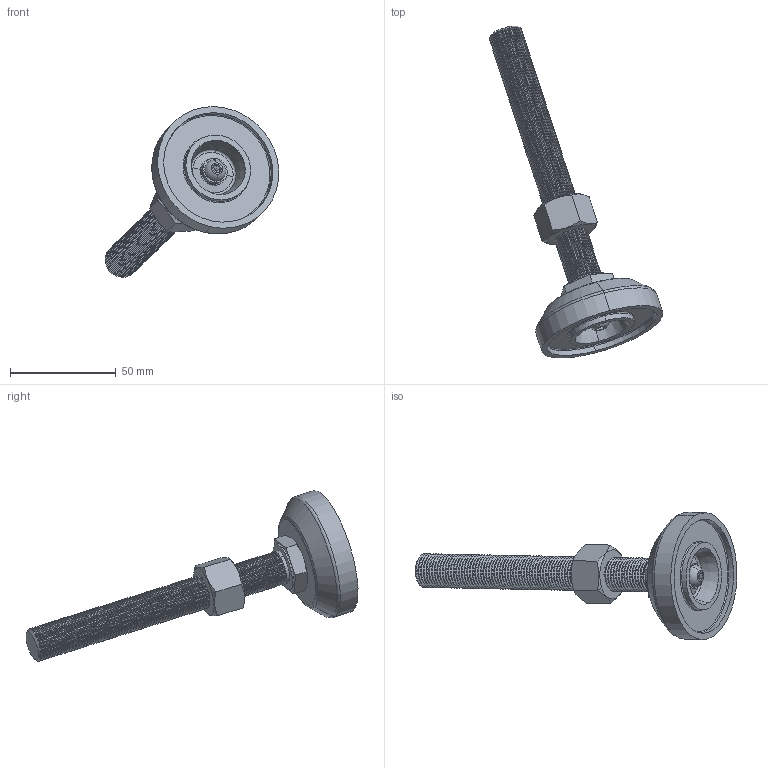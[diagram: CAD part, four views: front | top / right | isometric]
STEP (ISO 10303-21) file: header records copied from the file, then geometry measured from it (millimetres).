
FILE_DESCRIPTION (( 'STEP AP203' ), '1' );
FILE_NAME ('5.24.60.16.160.SS.STEP', '2014-05-20T06:17:38', ( 'USER' ), ( 'Microsoft' ), 'SwSTEP 2.0', 'SolidWorks 2012', '' );
FILE_SCHEMA (( 'CONFIG_CONTROL_DESIGN' ));
Length unit declared in the file: millimetre
Products named in the file (7): 5.24.60.16.160.SS; Plain washers--Product grade C GB_GB_FASTENER_WASHER_SMWC 6; Hexagon socket button head screws GB_GB_SOCKET_TYPE7 M6X20-N; Hexagon nuts grade C GB_GB_FASTENER_NUT_SNC1 M16-N; ￠60金属微调支脚脚垫; 130mm-M16支金属微调脚螺杆; M6蹟隊踢扽杶
Assembly tree (6 placements, depth 2):
  5.24.60.16.160.SS
    M6蹟隊踢扽杶
    130mm-M16支金属微调脚螺杆
    ￠60金属微调支脚脚垫
    Hexagon nuts grade C GB_GB_FASTENER_NUT_SNC1 M16-N
    Hexagon socket button head screws GB_GB_SOCKET_TYPE7 M6X20-N
    Plain washers--Product grade C GB_GB_FASTENER_WASHER_SMWC 6
Bounding box: 82.04 x 156.93 x 80.65 mm (x, y, z)
Volume: 69407.1 mm3; surface area: 25400.5 mm2
Topology: 6 solids, 6 shells, 951 faces, 1918 edges, 984 vertices
Faces by surface type: torus 354, cone 354, cylinder 194, plane 41, sphere 8
Entity records: 25209 total; most frequent: DIRECTION 5138, CARTESIAN_POINT 3992, ORIENTED_EDGE 3832, AXIS2_PLACEMENT_3D 2274, EDGE_CURVE 1916, CIRCLE 1314, VERTEX_POINT 984, EDGE_LOOP 966
